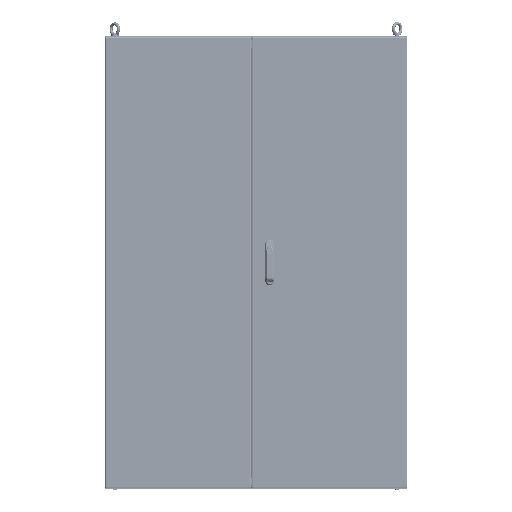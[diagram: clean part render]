
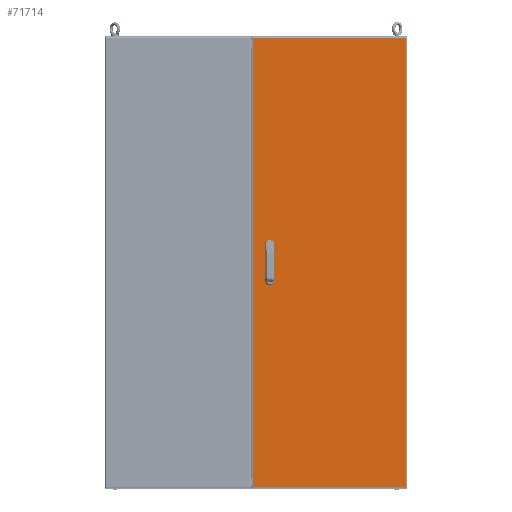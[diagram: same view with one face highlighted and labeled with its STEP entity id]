
A CAD part, front view. The second image highlights one B-rep face of the part: STEP entity #71714.
In plain terms, the highlighted planar face has unit normal (0, -1, 0).
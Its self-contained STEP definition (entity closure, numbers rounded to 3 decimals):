
#23403=ORIENTED_EDGE('',*,*,#34226,.T.);
#23404=ORIENTED_EDGE('',*,*,#34227,.T.);
#23405=ORIENTED_EDGE('',*,*,#34228,.T.);
#23406=ORIENTED_EDGE('',*,*,#34229,.T.);
#23407=ORIENTED_EDGE('',*,*,#34230,.F.);
#23408=ORIENTED_EDGE('',*,*,#34231,.T.);
#23409=ORIENTED_EDGE('',*,*,#34232,.T.);
#23410=ORIENTED_EDGE('',*,*,#34233,.T.);
#23411=ORIENTED_EDGE('',*,*,#34234,.T.);
#23412=ORIENTED_EDGE('',*,*,#34235,.T.);
#23413=ORIENTED_EDGE('',*,*,#34236,.T.);
#23414=ORIENTED_EDGE('',*,*,#34237,.T.);
#34226=EDGE_CURVE('',#41177,#41178,#47772,.T.);
#34227=EDGE_CURVE('',#41178,#41179,#47773,.T.);
#34228=EDGE_CURVE('',#41179,#41180,#47774,.T.);
#34229=EDGE_CURVE('',#41180,#41177,#47775,.T.);
#34230=EDGE_CURVE('',#41181,#41182,#47776,.T.);
#34231=EDGE_CURVE('',#41181,#41183,#47777,.T.);
#34232=EDGE_CURVE('',#41183,#41184,#47778,.T.);
#34233=EDGE_CURVE('',#41184,#41182,#47779,.T.);
#34234=EDGE_CURVE('',#41185,#41186,#47780,.T.);
#34235=EDGE_CURVE('',#41186,#41187,#47781,.T.);
#34236=EDGE_CURVE('',#41187,#41188,#47782,.T.);
#34237=EDGE_CURVE('',#41188,#41185,#47783,.T.);
#41177=VERTEX_POINT('',#126795);
#41178=VERTEX_POINT('',#126796);
#41179=VERTEX_POINT('',#126798);
#41180=VERTEX_POINT('',#126800);
#41181=VERTEX_POINT('',#126803);
#41182=VERTEX_POINT('',#126804);
#41183=VERTEX_POINT('',#126806);
#41184=VERTEX_POINT('',#126808);
#41185=VERTEX_POINT('',#126811);
#41186=VERTEX_POINT('',#126812);
#41187=VERTEX_POINT('',#126814);
#41188=VERTEX_POINT('',#126816);
#47772=LINE('',#126794,#54404);
#47773=LINE('',#126797,#54405);
#47774=LINE('',#126799,#54406);
#47775=LINE('',#126801,#54407);
#47776=LINE('',#126802,#54408);
#47777=LINE('',#126805,#54409);
#47778=LINE('',#126807,#54410);
#47779=LINE('',#126809,#54411);
#47780=LINE('',#126810,#54412);
#47781=LINE('',#126813,#54413);
#47782=LINE('',#126815,#54414);
#47783=LINE('',#126817,#54415);
#54404=VECTOR('',#99744,1000.);
#54405=VECTOR('',#99745,1000.);
#54406=VECTOR('',#99746,1000.);
#54407=VECTOR('',#99747,1000.);
#54408=VECTOR('',#99748,1000.);
#54409=VECTOR('',#99749,1000.);
#54410=VECTOR('',#99750,1000.);
#54411=VECTOR('',#99751,1000.);
#54412=VECTOR('',#99752,1000.);
#54413=VECTOR('',#99753,1000.);
#54414=VECTOR('',#99754,1000.);
#54415=VECTOR('',#99755,1000.);
#60072=EDGE_LOOP('',(#23403,#23404,#23405,#23406));
#60073=EDGE_LOOP('',(#23407,#23408,#23409,#23410));
#60074=EDGE_LOOP('',(#23411,#23412,#23413,#23414));
#65476=FACE_BOUND('',#60072,.T.);
#65477=FACE_BOUND('',#60073,.T.);
#65478=FACE_BOUND('',#60074,.T.);
#68015=PLANE('',#81658);
#71714=ADVANCED_FACE('',(#65476,#65477,#65478),#68015,.F.);
#81658=AXIS2_PLACEMENT_3D('',#126793,#99742,#99743);
#99742=DIRECTION('',(0.,1.,0.));
#99743=DIRECTION('',(1.,0.,0.));
#99744=DIRECTION('',(-1.,0.,0.));
#99745=DIRECTION('',(0.,0.,1.));
#99746=DIRECTION('',(1.,0.,0.));
#99747=DIRECTION('',(0.,0.,-1.));
#99748=DIRECTION('',(1.,0.,0.));
#99749=DIRECTION('',(0.,0.,-1.));
#99750=DIRECTION('',(1.,0.,0.));
#99751=DIRECTION('',(0.,0.,1.));
#99752=DIRECTION('',(-1.,0.,0.));
#99753=DIRECTION('',(0.,0.,1.));
#99754=DIRECTION('',(1.,0.,0.));
#99755=DIRECTION('',(0.,0.,-1.));
#126793=CARTESIAN_POINT('',(0.,-12.75,0.));
#126794=CARTESIAN_POINT('',(44.789,-12.75,-75.));
#126795=CARTESIAN_POINT('',(44.789,-12.75,-75.));
#126796=CARTESIAN_POINT('',(19.789,-12.75,-75.));
#126797=CARTESIAN_POINT('',(19.789,-12.75,-75.));
#126798=CARTESIAN_POINT('',(19.789,-12.75,-25.));
#126799=CARTESIAN_POINT('',(19.789,-12.75,-25.));
#126800=CARTESIAN_POINT('',(44.789,-12.75,-25.));
#126801=CARTESIAN_POINT('',(44.789,-12.75,-25.));
#126802=CARTESIAN_POINT('',(1.043,-12.75,891.7));
#126803=CARTESIAN_POINT('',(-34.911,-12.75,891.7));
#126804=CARTESIAN_POINT('',(573.,-12.75,891.7));
#126805=CARTESIAN_POINT('',(-34.911,-12.75,891.7));
#126806=CARTESIAN_POINT('',(-34.911,-12.75,-891.7));
#126807=CARTESIAN_POINT('',(1.043,-12.75,-891.7));
#126808=CARTESIAN_POINT('',(573.,-12.75,-891.7));
#126809=CARTESIAN_POINT('',(573.,-12.75,0.));
#126810=CARTESIAN_POINT('',(44.789,-12.75,25.));
#126811=CARTESIAN_POINT('',(44.789,-12.75,25.));
#126812=CARTESIAN_POINT('',(19.789,-12.75,25.));
#126813=CARTESIAN_POINT('',(19.789,-12.75,25.));
#126814=CARTESIAN_POINT('',(19.789,-12.75,75.));
#126815=CARTESIAN_POINT('',(19.789,-12.75,75.));
#126816=CARTESIAN_POINT('',(44.789,-12.75,75.));
#126817=CARTESIAN_POINT('',(44.789,-12.75,75.));
